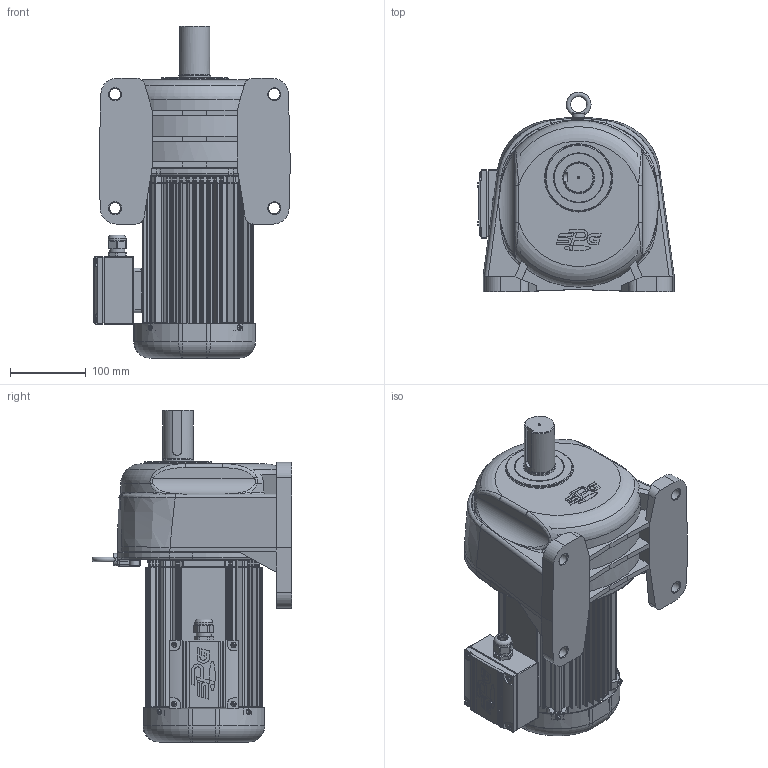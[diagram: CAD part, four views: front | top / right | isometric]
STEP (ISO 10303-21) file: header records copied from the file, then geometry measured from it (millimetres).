
FILE_DESCRIPTION(/* description */ (''),/* implementation_level */ '2;1');
FILE_NAME(/* name */ 'Z:\동력 3D 파일\PAL40-(100~200)-PA(B)075[ ]L_(3D).stp',/* time_stamp */ '2021-10-18T17:23:53+09:00',/* author */ ('jaebok'),/* organization */ (''),/* preprocessor_version */ 'ST-DEVELOPER v18.1',/* originating_system */ 'Autodesk Inventor 2022',/* authorisation */ '');
FILE_SCHEMA (('AUTOMOTIVE_DESIGN { 1 0 10303 214 3 1 1 }'));
Length unit declared in the file: millimetre
Products named in the file (1): 부품8
Bounding box: 259 x 263.3 x 437.5 mm (x, y, z)
Volume: 3624330.9 mm3; surface area: 915074.4 mm2
Topology: 1 solids, 32 shells, 3337 faces, 8415 edges, 5029 vertices
Faces by surface type: plane 1027, cylinder 920, bspline 819, torus 310, cone 157, sphere 104
Full cylindrical faces by diameter (mm): 2 x2, 3.25 x1, 3.5 x4, 3.6 x4, 4 x22, 5 x13, 6 x8, 6.8 x5, 7 x13, 8 x12, 9 x4, 10 x1, 12 x4, 12.5 x1, 13 x4, 15 x5, 18 x1, 20 x2, 20.6 x1, 21 x2, 23.6 x1, 25 x1, 27.8 x1, 28 x1, 30 x1, 35 x1, 39.8 x2, 40 x3, 41.8 x1, 42 x2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
Entity records: 133250 total; most frequent: CARTESIAN_POINT 55064, ORIENTED_EDGE 16414, DIRECTION 14632, EDGE_CURVE 8207, AXIS2_PLACEMENT_3D 5900, VERTEX_POINT 5029, EDGE_LOOP 3545, FACE_OUTER_BOUND 3337
